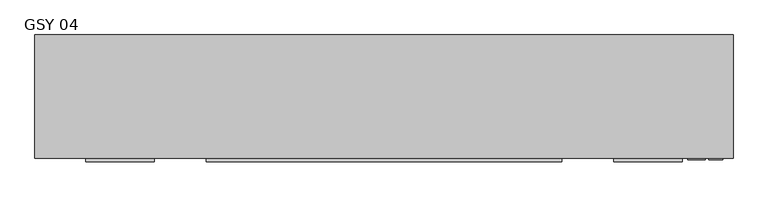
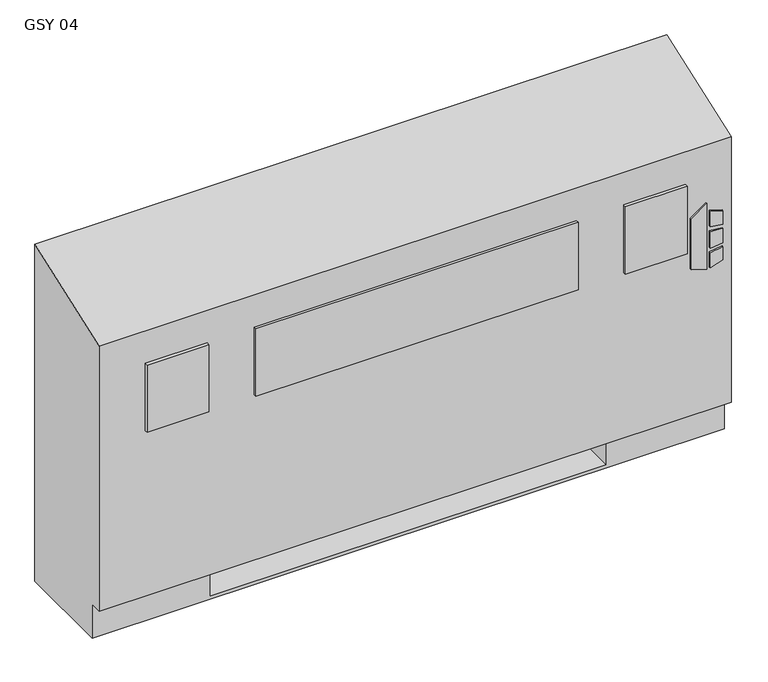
"""IFC4 building model written with IfcOpenShell, lengths in millimetres: proxy geometry, Vertical_Fan_Coil_Unit_-_GSY_-_IEC_-_2-Pipe_FS-FR_RH_2022 : GSY 04."""

from ifc_helpers import new_model, si_unit, point, frame, frame_2d, origin, place, context, project, spatial, polyline, circle_curve, trimmed, segment, composite_curve, outline, extrude, source, transform, mapped, element, save
from ifc_brep_helpers import plane_surface, revolved_surface, advanced_brep


def gsy_04_6afe9540(model_context):
    return source(origin(), model_context, "Body", "SolidModel", [
        extrude(outline(polyline([(391.6086829, 716.0368862), (381.6606126, 748.2102728), (523.831537, 748.2102728), (500.8095309, 716.0368862), (391.6086829, 716.0368862)])), frame((0.0, 12.7, 0.0), z_axis=(0.0, 1.0, 0.0), x_axis=(0.0, 0.0, 1.0)), (0.0, 0.0, 1.0), 3.175),
        extrude(outline(polyline([(470.6079683, 754.9686058), (467.4055757, 781.05), (496.6344168, 781.05), (504.6988318, 754.9686058), (470.6079683, 754.9686058)])), frame((0.0, 12.7, 0.0), z_axis=(0.0, 1.0, 0.0), x_axis=(0.0, 0.0, 1.0)), (0.0, 0.0, 1.0), 3.175),
        extrude(outline(polyline([(418.7444414, 781.05), (415.0789404, 754.9686058), (381.6606126, 754.9686058), (390.2948498, 781.05), (418.7444414, 781.05)])), frame((0.0, 12.7, 0.0), z_axis=(0.0, 1.0, 0.0), x_axis=(0.0, 0.0, 1.0)), (0.0, 0.0, 1.0), 3.175),
        extrude(outline(polyline([(458.0596028, 781.05), (460.3414292, 754.9686058), (424.4038806, 754.9686058), (427.1451456, 781.05), (458.0596028, 781.05)])), frame((0.0, 12.7, 0.0), z_axis=(0.0, 1.0, 0.0), x_axis=(0.0, 0.0, 1.0)), (0.0, 0.0, 1.0), 3.175),
        extrude(outline(polyline([(-274.193, 9.525), (-401.193, 9.525), (-401.193, 15.875), (-274.193, 15.875), (-274.193, 9.525)])), frame((0.0, 0.0, 431.8), z_axis=(0.0, 0.0, 1.0), x_axis=(1.0, 0.0, 0.0)), (0.0, 0.0, 1.0), 146.05),
        extrude(outline(polyline([(482.6, 9.525), (-177.8, 9.525), (-177.8, 15.875), (482.6, 15.875), (482.6, 9.525)])), frame((0.0, 0.0, 431.8), z_axis=(0.0, 0.0, 1.0), x_axis=(1.0, 0.0, 0.0)), (0.0, 0.0, 1.0), 146.05),
        extrude(outline(polyline([(705.993, 9.525), (578.993, 9.525), (578.993, 15.875), (705.993, 15.875), (705.993, 9.525)])), frame((0.0, 0.0, 431.8), z_axis=(0.0, 0.0, 1.0), x_axis=(1.0, 0.0, 0.0)), (0.0, 0.0, 1.0), 146.05),
        extrude(outline(polyline([(-374.65, 81.534), (-374.65, 223.266), (-127.0, 223.266), (-127.0, 81.534), (-374.65, 81.534)])), frame((0.0, 0.0, 327.025), z_axis=(0.0, 0.0, 1.0), x_axis=(1.0, 0.0, 0.0)), (0.0, 0.0, 1.0), 260.35),
        extrude(outline(composite_curve([segment(trimmed(circle_curve(frame_2d((80.645, 397.002)), 7.9375), [point((80.645, 404.9395))], [point((80.645, 389.0645))], False, "CARTESIAN"), True, "CONTINUOUS"), segment(trimmed(circle_curve(frame_2d((80.645, 397.002)), 7.9375), [point((80.645, 389.0645))], [point((80.645, 404.9395))], False, "CARTESIAN"), True, "CONTINUOUS")], self_intersect=False)), frame((558.8, 0.0, 0.0), z_axis=(1.0, 0.0, 0.0), x_axis=(0.0, 1.0, 0.0)), (0.0, 0.0, 1.0), 50.8),
        extrude(outline(composite_curve([segment(trimmed(circle_curve(frame_2d((156.8958, 535.8892)), 7.9375), [point((156.8958, 543.8267))], [point((156.8958, 527.9517))], False, "CARTESIAN"), True, "CONTINUOUS"), segment(trimmed(circle_curve(frame_2d((156.8958, 535.8892)), 7.9375), [point((156.8958, 527.9517))], [point((156.8958, 543.8267))], False, "CARTESIAN"), True, "CONTINUOUS")], self_intersect=False)), frame((558.8, 0.0, 0.0), z_axis=(1.0, 0.0, 0.0), x_axis=(0.0, 1.0, 0.0)), (0.0, 0.0, 1.0), 50.8),
        advanced_brep(
        [(-495.3, 244.475, 0.0), (800.1, 244.475, 0.0), (800.1, 41.275, 0.0), (-495.3, 41.275, 0.0), (-495.3, 244.475, 730.25), (800.1, 244.475, 730.25), (558.8, 244.475, 73.025), (787.4, 244.475, 73.025), (787.4, 244.475, 654.05), (558.8, 244.475, 654.05), (558.8, 244.475, 414.8650565), (587.375, 244.475, 414.8650565), (587.375, 244.475, 385.2349435), (558.8, 244.475, 385.2349435), (558.8, 244.475, 287.3375), (587.375, 244.475, 287.3375), (587.375, 244.475, 258.7625), (558.8, 244.475, 258.7625), (558.8, 244.475, 141.2875), (587.375, 244.475, 141.2875), (587.375, 244.475, 112.7125), (558.8, 244.475, 112.7125), (-254.0, 244.475, 654.05), (-482.6, 244.475, 654.05), (-482.6, 244.475, 73.025), (-254.0, 244.475, 73.025), (-254.0, 244.475, 112.7125), (-282.575, 244.475, 112.7125), (-282.575, 244.475, 141.2875), (-254.0, 244.475, 141.2875), (-254.0, 244.475, 258.7625), (-282.575, 244.475, 258.7625), (-282.575, 244.475, 287.3375), (-254.0, 244.475, 287.3375), (-254.0, 244.475, 385.2349435), (-282.575, 244.475, 385.2349435), (-282.575, 244.475, 414.8650565), (-254.0, 244.475, 414.8650565), (577.0626, 244.475, 127.0), (565.9374, 244.475, 127.0), (577.0626, 244.475, 400.05), (565.9374, 244.475, 400.05), (577.0626, 244.475, 273.05), (565.9374, 244.475, 273.05), (-261.1374, 244.475, 127.0), (-272.2626, 244.475, 127.0), (-261.1374, 244.475, 273.05), (-272.2626, 244.475, 273.05), (-261.1374, 244.475, 400.05), (-272.2626, 244.475, 400.05), (-495.3, 41.275, 73.025), (-495.3, 15.875, 73.025), (-495.3, 15.875, 647.7), (800.1, 15.875, 73.025), (800.1, 15.875, 647.7), (800.1, 41.275, 73.025), (-254.0, 41.275, 73.025), (-254.0, 225.425, 73.025), (558.8, 225.425, 73.025), (558.8, 41.275, 73.025), (558.8, 41.275, 6.35), (-254.0, 41.275, 6.35), (558.8, 41.275, 654.05), (787.4, 41.275, 654.05), (787.4, 41.275, 73.025), (558.8, 41.275, 73.025), (-254.0, 41.275, 654.05), (-254.0, 41.275, 73.025), (-482.6, 41.275, 73.025), (-482.6, 41.275, 654.05), (558.8, 225.425, 73.025), (558.8, 238.125, 112.7125), (558.8, 238.125, 141.2875), (558.8, 238.125, 258.7625), (558.8, 238.125, 287.3375), (558.8, 238.125, 385.2349435), (558.8, 238.125, 414.8650565), (-254.0, 225.425, 73.025), (-254.0, 238.125, 414.8650565), (-254.0, 238.125, 385.2349435), (-254.0, 238.125, 287.3375), (-254.0, 238.125, 258.7625), (-254.0, 238.125, 141.2875), (-254.0, 238.125, 112.7125), (-254.0, 225.425, 6.35), (558.8, 225.425, 6.35), (587.375, 238.125, 112.7125), (587.375, 238.125, 141.2875), (565.9374, 238.125, 127.0), (577.0626, 238.125, 127.0), (587.375, 238.125, 258.7625), (587.375, 238.125, 287.3375), (565.9374, 238.125, 273.05), (577.0626, 238.125, 273.05), (587.375, 238.125, 385.2349435), (587.375, 238.125, 414.8650565), (565.9374, 238.125, 400.05), (577.0626, 238.125, 400.05), (-282.575, 238.125, 141.2875), (-282.575, 238.125, 112.7125), (-272.2626, 238.125, 127.0), (-261.1374, 238.125, 127.0), (-282.575, 238.125, 287.3375), (-282.575, 238.125, 258.7625), (-272.2626, 238.125, 273.05), (-261.1374, 238.125, 273.05), (-282.575, 238.125, 414.8650565), (-282.575, 238.125, 385.2349435), (-272.2626, 238.125, 400.05), (-261.1374, 238.125, 400.05)],
        [
            (0, 1),
            (1, 2),
            (2, 3),
            (3, 0),
            (0, 4),
            (4, 5),
            (5, 1),
            (6, 7),
            (7, 8),
            (8, 9),
            (9, 10),
            (10, 11),
            (11, 12),
            (12, 13),
            (13, 14),
            (14, 15),
            (15, 16),
            (16, 17),
            (17, 18),
            (18, 19),
            (19, 20),
            (20, 21),
            (21, 6),
            (22, 23),
            (23, 24),
            (24, 25),
            (25, 26),
            (26, 27),
            (27, 28),
            (28, 29),
            (29, 30),
            (30, 31),
            (31, 32),
            (32, 33),
            (33, 34),
            (34, 35),
            (35, 36),
            (36, 37),
            (37, 22),
            (38, 39, circle_curve(frame((571.5, 244.475, 127.0), z_axis=(0.0, -1.0, 0.0), x_axis=(-1.0, 0.0, 0.0)), 5.5626)),
            (39, 38, circle_curve(frame((571.5, 244.475, 127.0), z_axis=(0.0, -1.0, 0.0), x_axis=(-1.0, 0.0, 0.0)), 5.5626)),
            (40, 41, circle_curve(frame((571.5, 244.475, 400.05), z_axis=(0.0, -1.0, 0.0), x_axis=(-1.0, 0.0, 0.0)), 5.5626)),
            (41, 40, circle_curve(frame((571.5, 244.475, 400.05), z_axis=(0.0, -1.0, 0.0), x_axis=(-1.0, 0.0, 0.0)), 5.5626)),
            (42, 43, circle_curve(frame((571.5, 244.475, 273.05), z_axis=(0.0, -1.0, 0.0), x_axis=(-1.0, 0.0, 0.0)), 5.5626)),
            (43, 42, circle_curve(frame((571.5, 244.475, 273.05), z_axis=(0.0, -1.0, 0.0), x_axis=(-1.0, 0.0, 0.0)), 5.5626)),
            (44, 45, circle_curve(frame((-266.7, 244.475, 127.0), z_axis=(0.0, -1.0, 0.0), x_axis=(-1.0, 0.0, 0.0)), 5.5626)),
            (45, 44, circle_curve(frame((-266.7, 244.475, 127.0), z_axis=(0.0, -1.0, 0.0), x_axis=(-1.0, 0.0, 0.0)), 5.5626)),
            (46, 47, circle_curve(frame((-266.7, 244.475, 273.05), z_axis=(0.0, -1.0, 0.0), x_axis=(-1.0, 0.0, 0.0)), 5.5626)),
            (47, 46, circle_curve(frame((-266.7, 244.475, 273.05), z_axis=(0.0, -1.0, 0.0), x_axis=(-1.0, 0.0, 0.0)), 5.5626)),
            (48, 49, circle_curve(frame((-266.7, 244.475, 400.05), z_axis=(0.0, -1.0, 0.0), x_axis=(-1.0, 0.0, 0.0)), 5.5626)),
            (49, 48, circle_curve(frame((-266.7, 244.475, 400.05), z_axis=(0.0, -1.0, 0.0), x_axis=(-1.0, 0.0, 0.0)), 5.5626)),
            (3, 50),
            (50, 51),
            (51, 52),
            (52, 4),
            (51, 53),
            (53, 54),
            (54, 52),
            (5, 54),
            (53, 55),
            (55, 2),
            (50, 56),
            (56, 57),
            (57, 58),
            (58, 59),
            (59, 55),
            (59, 60),
            (60, 61),
            (61, 56),
            (62, 63),
            (63, 64),
            (64, 65),
            (65, 62),
            (66, 67),
            (67, 68),
            (68, 69),
            (69, 66),
            (65, 70),
            (70, 6),
            (21, 71),
            (71, 72),
            (72, 18),
            (17, 73),
            (73, 74),
            (74, 14),
            (13, 75),
            (75, 76),
            (76, 10),
            (9, 62),
            (64, 7),
            (63, 8),
            (69, 23),
            (22, 66),
            (68, 24),
            (67, 77),
            (77, 25),
            (37, 78),
            (78, 79),
            (79, 34),
            (33, 80),
            (80, 81),
            (81, 30),
            (29, 82),
            (82, 83),
            (83, 26),
            (57, 84),
            (84, 85),
            (85, 58),
            (85, 60),
            (84, 61),
            (71, 86),
            (86, 87),
            (87, 72),
            (88, 89, circle_curve(frame((571.5, 238.125, 127.0), z_axis=(0.0, 1.0, 0.0), x_axis=(-1.0, 0.0, 0.0)), 5.5626)),
            (89, 88, circle_curve(frame((571.5, 238.125, 127.0), z_axis=(0.0, 1.0, 0.0), x_axis=(-1.0, 0.0, 0.0)), 5.5626)),
            (73, 90),
            (90, 91),
            (91, 74),
            (92, 93, circle_curve(frame((571.5, 238.125, 273.05), z_axis=(0.0, 1.0, 0.0), x_axis=(-1.0, 0.0, 0.0)), 5.5626)),
            (93, 92, circle_curve(frame((571.5, 238.125, 273.05), z_axis=(0.0, 1.0, 0.0), x_axis=(-1.0, 0.0, 0.0)), 5.5626)),
            (75, 94),
            (94, 95),
            (95, 76),
            (96, 97, circle_curve(frame((571.5, 238.125, 400.05), z_axis=(0.0, 1.0, 0.0), x_axis=(-1.0, 0.0, 0.0)), 5.5626)),
            (97, 96, circle_curve(frame((571.5, 238.125, 400.05), z_axis=(0.0, 1.0, 0.0), x_axis=(-1.0, 0.0, 0.0)), 5.5626)),
            (98, 99),
            (99, 83),
            (82, 98),
            (100, 101, circle_curve(frame((-266.7, 238.125, 127.0), z_axis=(0.0, 1.0, 0.0), x_axis=(-1.0, 0.0, 0.0)), 5.5626)),
            (101, 100, circle_curve(frame((-266.7, 238.125, 127.0), z_axis=(0.0, 1.0, 0.0), x_axis=(-1.0, 0.0, 0.0)), 5.5626)),
            (102, 103),
            (103, 81),
            (80, 102),
            (104, 105, circle_curve(frame((-266.7, 238.125, 273.05), z_axis=(0.0, 1.0, 0.0), x_axis=(-1.0, 0.0, 0.0)), 5.5626)),
            (105, 104, circle_curve(frame((-266.7, 238.125, 273.05), z_axis=(0.0, 1.0, 0.0), x_axis=(-1.0, 0.0, 0.0)), 5.5626)),
            (106, 107),
            (107, 79),
            (78, 106),
            (108, 109, circle_curve(frame((-266.7, 238.125, 400.05), z_axis=(0.0, 1.0, 0.0), x_axis=(-1.0, 0.0, 0.0)), 5.5626)),
            (109, 108, circle_curve(frame((-266.7, 238.125, 400.05), z_axis=(0.0, 1.0, 0.0), x_axis=(-1.0, 0.0, 0.0)), 5.5626)),
            (87, 19),
            (86, 20),
            (91, 15),
            (90, 16),
            (95, 11),
            (94, 12),
            (28, 98),
            (99, 27),
            (32, 102),
            (103, 31),
            (36, 106),
            (107, 35),
            (88, 39),
            (38, 89),
            (96, 41),
            (40, 97),
            (92, 43),
            (42, 93),
            (100, 45),
            (44, 101),
            (104, 47),
            (46, 105),
            (108, 49),
            (48, 109),
        ],
        [
            plane_surface(frame((-495.3, 244.475, 0.0), z_axis=(0.0, 0.0, -1.0), x_axis=(1.0, 0.0, 0.0))),
            plane_surface(frame((800.1, 244.475, 730.25), z_axis=(0.0, 1.0, 0.0), x_axis=(0.0, 0.0, -1.0))),
            plane_surface(frame((-495.3, 244.475, 730.25), z_axis=(-1.0, 0.0, 0.0), x_axis=(0.0, 0.0, -1.0))),
            plane_surface(frame((-495.3, 15.875, 730.25), z_axis=(0.0, -1.0, 0.0), x_axis=(0.0, 0.0, -1.0))),
            plane_surface(frame((800.1, 15.875, 730.25), z_axis=(1.0, 0.0, 0.0), x_axis=(0.0, 0.0, -1.0))),
            plane_surface(frame((-495.3, 15.875, 73.025), z_axis=(0.0, 0.0, -1.0), x_axis=(1.0, 0.0, 0.0))),
            plane_surface(frame((-495.3, 41.275, 73.025), z_axis=(0.0, -1.0, 0.0), x_axis=(1.0, 0.0, 0.0))),
            plane_surface(frame((558.8, 41.275, 654.05), z_axis=(0.0, 1.0, 0.0), x_axis=(0.0, 0.0, -1.0))),
            plane_surface(frame((558.8, 41.275, 654.05), z_axis=(1.0, 0.0, 0.0), x_axis=(0.0, 1.0, 0.0))),
            plane_surface(frame((558.8, 41.275, 73.025), z_axis=(0.0, 0.0, 1.0), x_axis=(0.0, 1.0, 0.0))),
            plane_surface(frame((787.4, 41.275, 73.025), z_axis=(-1.0, 0.0, 0.0), x_axis=(0.0, 1.0, 0.0))),
            plane_surface(frame((787.4, 41.275, 654.05), z_axis=(0.0, 0.0, -1.0), x_axis=(0.0, 1.0, 0.0))),
            plane_surface(frame((-254.0, 41.275, 654.05), z_axis=(0.0, 0.0, -1.0), x_axis=(0.0, 1.0, 0.0))),
            plane_surface(frame((-482.6, 41.275, 654.05), z_axis=(1.0, 0.0, 0.0), x_axis=(0.0, 1.0, 0.0))),
            plane_surface(frame((-482.6, 41.275, 73.025), z_axis=(0.0, 0.0, 1.0), x_axis=(0.0, 1.0, 0.0))),
            plane_surface(frame((-254.0, 41.275, 73.025), z_axis=(-1.0, 0.0, 0.0), x_axis=(0.0, 1.0, 0.0))),
            plane_surface(frame((558.8, 225.425, 73.025), z_axis=(0.0, -1.0, 0.0), x_axis=(0.0, 0.0, -1.0))),
            plane_surface(frame((558.8, 225.425, 73.025), z_axis=(-1.0, 0.0, 0.0), x_axis=(0.0, -1.0, 0.0))),
            plane_surface(frame((558.8, 225.425, 6.35), z_axis=(0.0, 0.0, 1.0), x_axis=(0.0, -1.0, 0.0))),
            plane_surface(frame((-254.0, 225.425, 6.35), z_axis=(1.0, 0.0, 0.0), x_axis=(0.0, -1.0, 0.0))),
            plane_surface(frame((587.375, 238.125, 141.2875), z_axis=(0.0, -1.0, 0.0), x_axis=(-1.0, 0.0, 0.0))),
            plane_surface(frame((558.8, 244.475, 141.2875), z_axis=(0.0, 0.0, 1.0), x_axis=(0.0, -1.0, 0.0))),
            plane_surface(frame((587.375, 244.475, 141.2875), z_axis=(1.0, 0.0, 0.0), x_axis=(0.0, -1.0, 0.0))),
            plane_surface(frame((587.375, 244.475, 112.7125), z_axis=(0.0, 0.0, -1.0), x_axis=(0.0, -1.0, 0.0))),
            plane_surface(frame((558.8, 244.475, 287.3375), z_axis=(0.0, 0.0, 1.0), x_axis=(0.0, -1.0, 0.0))),
            plane_surface(frame((587.375, 244.475, 287.3375), z_axis=(1.0, 0.0, 0.0), x_axis=(0.0, -1.0, 0.0))),
            plane_surface(frame((587.375, 244.475, 258.7625), z_axis=(0.0, 0.0, -1.0), x_axis=(0.0, -1.0, 0.0))),
            plane_surface(frame((558.8, 244.475, 414.8650565), z_axis=(0.0, 0.0, 1.0), x_axis=(0.0, -1.0, 0.0))),
            plane_surface(frame((587.375, 244.475, 414.8650565), z_axis=(1.0, 0.0, 0.0), x_axis=(0.0, -1.0, 0.0))),
            plane_surface(frame((587.375, 244.475, 385.2349435), z_axis=(0.0, 0.0, -1.0), x_axis=(0.0, -1.0, 0.0))),
            plane_surface(frame((-282.575, 244.475, 141.2875), z_axis=(0.0, 0.0, 1.0), x_axis=(0.0, -1.0, 0.0))),
            plane_surface(frame((-254.0, 244.475, 112.7125), z_axis=(0.0, 0.0, -1.0), x_axis=(0.0, -1.0, 0.0))),
            plane_surface(frame((-282.575, 244.475, 112.7125), z_axis=(-1.0, 0.0, 0.0), x_axis=(0.0, -1.0, 0.0))),
            plane_surface(frame((-282.575, 244.475, 287.3375), z_axis=(0.0, 0.0, 1.0), x_axis=(0.0, -1.0, 0.0))),
            plane_surface(frame((-254.0, 244.475, 258.7625), z_axis=(0.0, 0.0, -1.0), x_axis=(0.0, -1.0, 0.0))),
            plane_surface(frame((-282.575, 244.475, 258.7625), z_axis=(-1.0, 0.0, 0.0), x_axis=(0.0, -1.0, 0.0))),
            plane_surface(frame((-282.575, 244.475, 414.8650565), z_axis=(0.0, 0.0, 1.0), x_axis=(0.0, -1.0, 0.0))),
            plane_surface(frame((-254.0, 244.475, 385.2349435), z_axis=(0.0, 0.0, -1.0), x_axis=(0.0, -1.0, 0.0))),
            plane_surface(frame((-282.575, 244.475, 385.2349435), z_axis=(-1.0, 0.0, 0.0), x_axis=(0.0, -1.0, 0.0))),
            revolved_surface(polyline([(565.9374, 238.125, 127.0), (565.9374, 244.475, 127.0)]), (571.5, 244.475, 127.0), (0.0, -1.0, 0.0)),
            revolved_surface(polyline([(565.9374, 238.125, 400.05), (565.9374, 244.475, 400.05)]), (571.5, 244.475, 400.05), (0.0, -1.0, 0.0)),
            revolved_surface(polyline([(565.9374, 238.125, 273.05), (565.9374, 244.475, 273.05)]), (571.5, 244.475, 273.05), (0.0, -1.0, 0.0)),
            revolved_surface(polyline([(-272.26259999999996, 238.125, 127.0), (-272.26259999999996, 244.475, 127.0)]), (-266.7, 244.475, 127.0), (0.0, -1.0, 0.0)),
            revolved_surface(polyline([(-272.26259999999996, 238.125, 273.05), (-272.26259999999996, 244.475, 273.05)]), (-266.7, 244.475, 273.05), (0.0, -1.0, 0.0)),
            revolved_surface(polyline([(-272.26259999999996, 238.125, 400.05), (-272.26259999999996, 244.475, 400.05)]), (-266.7, 244.475, 400.05), (0.0, -1.0, 0.0)),
            plane_surface(frame((-495.3, 244.475, 730.25), z_axis=(0.0, -0.33964446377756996, 0.9405538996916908), x_axis=(1.0, 0.0, 0.0))),
        ],
        [
            (0, [[1, 2, 3, 4]]),
            (1, [[-1, 5, 6, 7], [8, 9, 10, 11, 12, 13, 14, 15, 16, 17, 18, 19, 20, 21, 22, 23], [24, 25, 26, 27, 28, 29, 30, 31, 32, 33, 34, 35, 36, 37, 38, 39], [40, 41], [42, 43], [44, 45], [46, 47], [48, 49], [50, 51]]),
            (2, [[-5, -4, 52, 53, 54, 55]]),
            (3, [[56, 57, 58, -54]]),
            (4, [[-7, 59, -57, 60, 61, -2]]),
            (5, [[-53, 62, 63, 64, 65, 66, -60, -56]]),
            (6, [[-3, -61, -66, 67, 68, 69, -62, -52]]),
            (7, [[70, 71, 72, 73]]),
            (7, [[74, 75, 76, 77]]),
            (8, [[-73, 78, 79, -23, 80, 81, 82, -19, 83, 84, 85, -15, 86, 87, 88, -11, 89]]),
            (9, [[-72, 90, -8, -79, -78]]),
            (10, [[-71, 91, -9, -90]]),
            (11, [[-70, -89, -10, -91]]),
            (12, [[-77, 92, -24, 93]]),
            (13, [[-76, 94, -25, -92]]),
            (14, [[-75, 95, 96, -26, -94]]),
            (15, [[-74, -93, -39, 97, 98, 99, -35, 100, 101, 102, -31, 103, 104, 105, -27, -96, -95]]),
            (16, [[-64, 106, 107, 108]]),
            (17, [[-108, 109, -67, -65]]),
            (18, [[-107, 110, -68, -109]]),
            (19, [[-106, -63, -69, -110]]),
            (20, [[111, 112, 113, -81], [114, 115]]),
            (20, [[116, 117, 118, -84], [119, 120]]),
            (20, [[121, 122, 123, -87], [124, 125]]),
            (20, [[126, 127, -104, 128], [129, 130]]),
            (20, [[131, 132, -101, 133], [134, 135]]),
            (20, [[136, 137, -98, 138], [139, 140]]),
            (21, [[-113, 141, -20, -82]]),
            (22, [[-112, 142, -21, -141]]),
            (23, [[-111, -80, -22, -142]]),
            (24, [[-118, 143, -16, -85]]),
            (25, [[-117, 144, -17, -143]]),
            (26, [[-116, -83, -18, -144]]),
            (27, [[-123, 145, -12, -88]]),
            (28, [[-122, 146, -13, -145]]),
            (29, [[-121, -86, -14, -146]]),
            (30, [[-128, -103, -30, 147]]),
            (31, [[-127, 148, -28, -105]]),
            (32, [[-126, -147, -29, -148]]),
            (33, [[-133, -100, -34, 149]]),
            (34, [[-132, 150, -32, -102]]),
            (35, [[-131, -149, -33, -150]]),
            (36, [[-138, -97, -38, 151]]),
            (37, [[-137, 152, -36, -99]]),
            (38, [[-136, -151, -37, -152]]),
            (39, [[153, -40, 154, -114]]),
            (39, [[-153, -115, -154, -41]]),
            (40, [[155, -42, 156, -124]]),
            (40, [[-155, -125, -156, -43]]),
            (41, [[157, -44, 158, -119]]),
            (41, [[-157, -120, -158, -45]]),
            (42, [[159, -46, 160, -129]]),
            (42, [[-159, -130, -160, -47]]),
            (43, [[161, -48, 162, -134]]),
            (43, [[-161, -135, -162, -49]]),
            (44, [[163, -50, 164, -139]]),
            (44, [[-163, -140, -164, -51]]),
            (45, [[-6, -55, -58, -59]]),
        ],
    ),
    ])


if __name__ == "__main__":
    model = new_model("IFC4")
    model_context = context("Model", 3, world=origin())
    ifc_project = project(units=[si_unit("LENGTHUNIT", "METRE", prefix="MILLI")], contexts=[model_context])
    site = spatial("IfcSite", under=ifc_project)
    building = spatial("IfcBuilding", under=site)
    placement = place(None, origin())
    gsy_04_shape = gsy_04_6afe9540(model_context)
    element("IfcBuildingElementProxy", 1, Name="Vertical_Fan_Coil_Unit_-_GSY_-_IEC_-_2-Pipe_FS-FR_RH_2022 : GSY 04", ObjectType="Vertical_Fan_Coil_Unit_-_GSY_-_IEC_-_2-Pipe_FS-FR_RH_2022 : GSY 04", at=placement, inside=building, context=model_context, shape_type="MappedRepresentation", body=[
        mapped(gsy_04_shape, transform((0.0, 0.0, 0.0), x_axis=(1.0, 0.0, 0.0), y_axis=(0.0, 1.0, 0.0), z_axis=(0.0, 0.0, 1.0))),
    ])
    save(model, "model.ifc")
